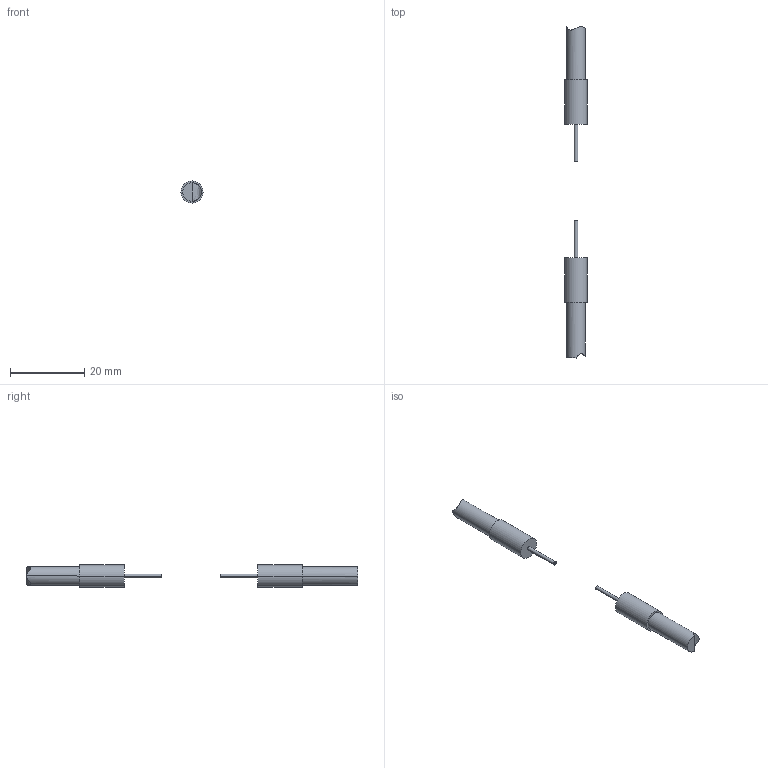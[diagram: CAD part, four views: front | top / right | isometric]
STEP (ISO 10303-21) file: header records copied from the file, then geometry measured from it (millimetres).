
FILE_DESCRIPTION((''),'2;1');
FILE_NAME('0000472789_PRT','2022-01-13T10:00:28',('pdmservice'),(''),'CREO PARAMETRIC BY PTC INC, 2018420','CREO PARAMETRIC BY PTC INC, 2018420','');
FILE_SCHEMA(('AUTOMOTIVE_DESIGN { 1 0 10303 214 1 1 1 1 }'));
Length unit declared in the file: millimetre
Products named in the file (1): 0000472789_PRT
Bounding box: 6 x 89.47 x 6 mm (x, y, z)
Volume: 1253.2 mm3; surface area: 1081.3 mm2
Topology: 2 solids, 2 shells, 27 faces, 51 edges, 34 vertices
Faces by surface type: cylinder 16, plane 9, extrusion 2
Entity records: 1974 total; most frequent: CARTESIAN_POINT 279, DIRECTION 129, PROPERTY_DEFINITION 122, REPRESENTATION 121, PROPERTY_DEFINITION_REPRESENTATION 121, DESCRIPTIVE_REPRESENTATION_ITEM 109, GENERAL_PROPERTY 104, GENERAL_PROPERTY_ASSOCIATION 104
